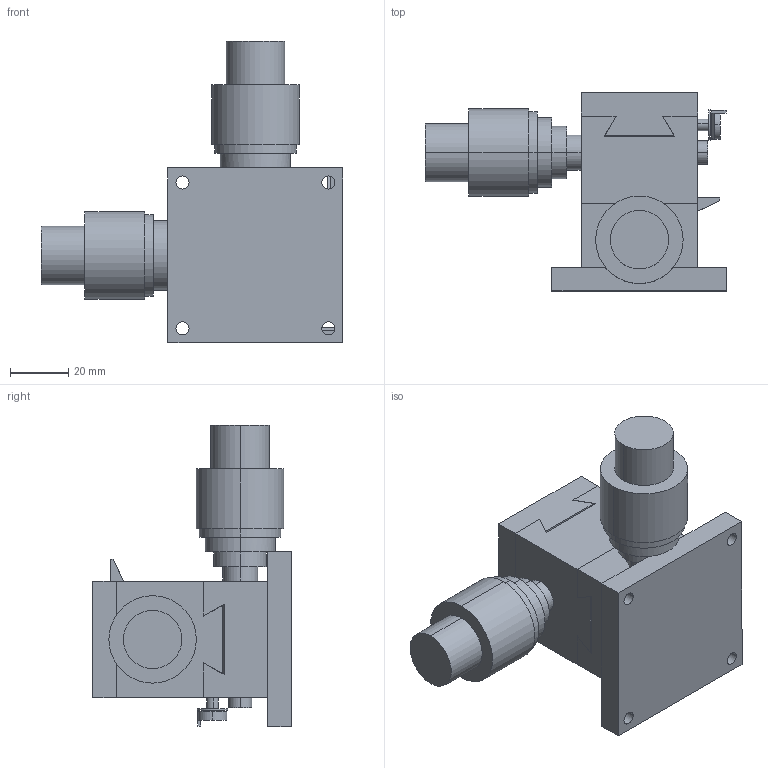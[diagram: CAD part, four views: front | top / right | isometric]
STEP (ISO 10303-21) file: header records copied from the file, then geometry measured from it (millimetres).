
FILE_DESCRIPTION (( 'STEP AP203' ), '1' );
FILE_NAME ('LD-412S.STEP', '2008-03-03T08:37:34', ( '' ), ( '' ), 'SwSTEP 2.0', 'SolidWorks 2007', '' );
FILE_SCHEMA (( 'CONFIG_CONTROL_DESIGN' ));
Length unit declared in the file: millimetre
Products named in the file (4): LD-412S; LD-412S-2; LD-412S-3; LD-412S-1
Assembly tree (3 placements, depth 2):
  LD-412S
    LD-412S-2
    LD-412S-3
    LD-412S-1
Bounding box: 103.5 x 68 x 103.5 mm (x, y, z)
Volume: 172447.4 mm3; surface area: 42697.8 mm2
Topology: 3 solids, 3 shells, 200 faces, 472 edges, 312 vertices
Faces by surface type: plane 110, cylinder 90
Entity records: 6258 total; most frequent: DIRECTION 1064, CARTESIAN_POINT 1002, ORIENTED_EDGE 944, EDGE_CURVE 472, AXIS2_PLACEMENT_3D 390, VERTEX_POINT 312, LINE 284, VECTOR 284
